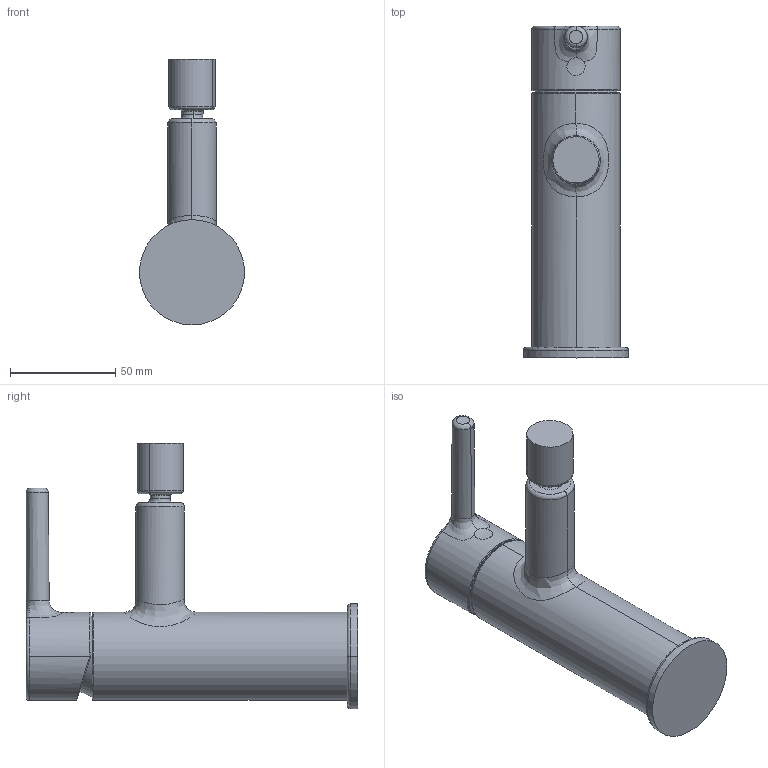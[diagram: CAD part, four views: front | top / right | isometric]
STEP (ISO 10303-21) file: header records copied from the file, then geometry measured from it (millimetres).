
FILE_DESCRIPTION (( 'STEP AP203' ), '1' );
FILE_NAME ('54642207(2026).STEP', '2025-08-28T11:44:44', ( '' ), ( '' ), 'SwSTEP 2.0', 'SolidWorks 2024', '' );
FILE_SCHEMA (( 'CONFIG_CONTROL_DESIGN' ));
Length unit declared in the file: millimetre
Products named in the file (1): 54642207(2026)
Bounding box: 50 x 157.71 x 126.36 mm (x, y, z)
Volume: 257572.1 mm3; surface area: 33091.5 mm2
Topology: 1 solids, 1 shells, 55 faces, 127 edges, 79 vertices
Faces by surface type: bspline 28, cylinder 14, plane 9, torus 2, sphere 2
Entity records: 6820 total; most frequent: CARTESIAN_POINT 5701, ORIENTED_EDGE 252, DIRECTION 154, EDGE_CURVE 126, VERTEX_POINT 79, AXIS2_PLACEMENT_3D 68, B_SPLINE_CURVE_WITH_KNOTS 64, EDGE_LOOP 61
